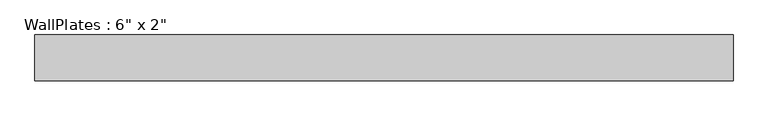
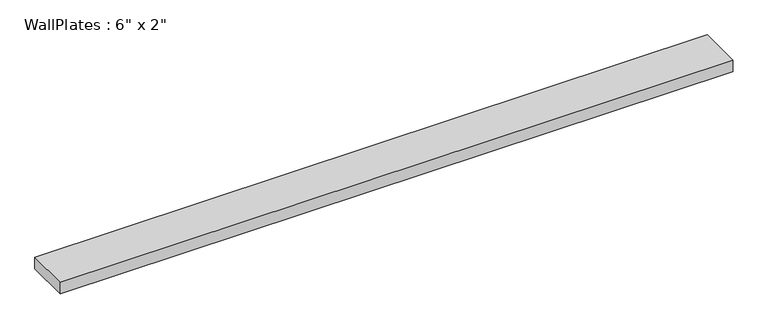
"""IFC4 building model written with IfcOpenShell, lengths in millimetres: beam geometry."""

import ifcopenshell
import ifcopenshell.guid

model = None  # the IFC model being written
_history = None  # IfcOwnerHistory: only IFC2X3 demands one
_inside = {}  # id of a spatial element -> (the spatial element, [elements in it])
_under = {}  # id of a project, library or spatial element -> (it, [spatial elements below it])
_declared = {}  # id of a project -> (the project, [libraries it declares])
_typed = {}  # id of a type object -> (the type object, [elements of that type])
_made_of = {}  # id of a material, layer set ... -> (it, [elements and type objects made of it])


def new_model(schema):
    """Start an empty IFC model of exactly this schema.

    Asked for "IFC4X3", IfcOpenShell would pick the latest addendum, in which some entities
    have other attributes; the version numbers below select the first issue.
    IFC2X3 requires an IfcOwnerHistory on every rooted entity: one is made here for all.
    """
    global model, _history
    if schema == "IFC4X3":
        model = ifcopenshell.file(schema_version=(4, 3, 0, 0))
    else:
        model = ifcopenshell.file(schema=schema)
    _inside.clear()
    _under.clear()
    _declared.clear()
    _typed.clear()
    _made_of.clear()
    _history = None
    if model.schema == "IFC2X3":
        org = make("IfcOrganization", Name="unknown")
        user = make(
            "IfcPersonAndOrganization",
            ThePerson=make("IfcPerson", FamilyName="unknown"),
            TheOrganization=org,
        )
        app = make(
            "IfcApplication",
            ApplicationDeveloper=org,
            Version="unknown",
            ApplicationFullName="unknown",
            ApplicationIdentifier="unknown",
        )
        _history = make(
            "IfcOwnerHistory",
            OwningUser=user,
            OwningApplication=app,
            ChangeAction="ADDED",
            CreationDate=0,
        )
    return model


def make(cls, **values):
    """One entity of the class cls with the attributes given. An attribute that is None is left unset."""
    return model.create_entity(
        cls, **{name: value for name, value in values.items() if value is not None}
    )


def rooted(cls, **values):
    """An entity with a GlobalId (a new one), such as an element, a storey or a relation."""
    return make(cls, GlobalId=ifcopenshell.guid.new(), OwnerHistory=_history, **values)


def si_unit(unit_type, name, prefix=None):
    """IfcSIUnit, for example si_unit("LENGTHUNIT", "METRE", prefix="MILLI")."""
    return make("IfcSIUnit", UnitType=unit_type, Prefix=prefix, Name=name)


def assignment(units):
    """IfcUnitAssignment: the units of a project."""
    return None if units is None else make("IfcUnitAssignment", Units=units)


def point(xyz):
    """IfcCartesianPoint."""
    return None if xyz is None else make("IfcCartesianPoint", Coordinates=xyz)


def direction(xyz):
    """IfcDirection."""
    return None if xyz is None else make("IfcDirection", DirectionRatios=xyz)


def frame(location, z_axis=None, x_axis=None):
    """IfcAxis2Placement3D, a coordinate frame: its origin and axes. An axis left out is left unset."""
    return make(
        "IfcAxis2Placement3D",
        Location=point(location),
        Axis=direction(z_axis),
        RefDirection=direction(x_axis),
    )


def origin():
    """The frame at (0, 0, 0) with its axes left unset."""
    return frame((0.0, 0.0, 0.0))


def place(relative_to, where):
    """IfcLocalPlacement: puts the frame where relative to a parent placement (None: the world)."""
    return make(
        "IfcLocalPlacement", PlacementRelTo=relative_to, RelativePlacement=where
    )


def context(
    kind, dimensions, precision=None, world=None, true_north=None, identifier=None
):
    """IfcGeometricRepresentationContext, for example the 3D "Model" context."""
    return make(
        "IfcGeometricRepresentationContext",
        ContextIdentifier=identifier,
        ContextType=kind,
        CoordinateSpaceDimension=dimensions,
        Precision=precision,
        WorldCoordinateSystem=world,
        TrueNorth=true_north,
    )


def project(units=None, contexts=None):
    """IfcProject with its units and contexts."""
    return rooted(
        "IfcProject",
        Name="project",
        RepresentationContexts=contexts,
        UnitsInContext=assignment(units),
    )


def spatial(cls, under=None, at=None, **own):
    """A site, building, storey or space (cls), placed at a placement, below another one or the project."""
    s = rooted(cls, ObjectPlacement=at, **own)
    if under is not None:
        _under.setdefault(under.id(), (under, []))[1].append(s)
    return s


def polyline(points):
    """IfcPolyline through the points."""
    return make("IfcPolyline", Points=[point(p) for p in points])


def outline(outer, holes=None, kind="AREA"):
    """IfcArbitraryClosedProfileDef: a profile drawn as a closed curve; with holes, ...WithVoids."""
    if holes is None:
        return make("IfcArbitraryClosedProfileDef", ProfileType=kind, OuterCurve=outer)
    return make(
        "IfcArbitraryProfileDefWithVoids",
        ProfileType=kind,
        OuterCurve=outer,
        InnerCurves=holes,
    )


def extrude(swept, where, along, depth):
    """IfcExtrudedAreaSolid: the profile swept, set in the frame where, extruded along a direction by depth."""
    return make(
        "IfcExtrudedAreaSolid",
        SweptArea=swept,
        Position=where,
        ExtrudedDirection=direction(along),
        Depth=depth,
    )


def shape(context_of_items, identifier, shape_type, items):
    """IfcShapeRepresentation: the items that make up one representation, for example the "Body"."""
    return make(
        "IfcShapeRepresentation",
        ContextOfItems=context_of_items,
        RepresentationIdentifier=identifier,
        RepresentationType=shape_type,
        Items=items,
    )


def source(mapping_origin, context_of_items, identifier, shape_type, items):
    """IfcRepresentationMap: a shape defined once, which mapped items show again and again."""
    return make(
        "IfcRepresentationMap",
        MappingOrigin=mapping_origin,
        MappedRepresentation=shape(context_of_items, identifier, shape_type, items),
    )


def transform(
    local_origin,
    x_axis=None,
    y_axis=None,
    z_axis=None,
    scale=None,
    scale2=None,
    scale3=None,
    uniform=True,
):
    """IfcCartesianTransformationOperator3D, or its non-uniform kind. x_axis, y_axis, z_axis: its Axis1, 2, 3."""
    if uniform:
        return make(
            "IfcCartesianTransformationOperator3D",
            Axis1=direction(x_axis),
            Axis2=direction(y_axis),
            LocalOrigin=point(local_origin),
            Scale=scale,
            Axis3=direction(z_axis),
        )
    return make(
        "IfcCartesianTransformationOperator3DnonUniform",
        Axis1=direction(x_axis),
        Axis2=direction(y_axis),
        LocalOrigin=point(local_origin),
        Scale=scale,
        Axis3=direction(z_axis),
        Scale2=scale2,
        Scale3=scale3,
    )


def mapped(mapping_source, mapping_target):
    """IfcMappedItem: shows the shape of a source again, moved by a transform."""
    return make(
        "IfcMappedItem", MappingSource=mapping_source, MappingTarget=mapping_target
    )


def made_of(thing, what):
    """Note that an element or type object is made of a material, layer set ...; save() writes the relation."""
    if what is not None:
        _made_of.setdefault(what.id(), (what, []))[1].append(thing)
    return thing


def element(
    cls,
    number,
    at=None,
    inside=None,
    cuts=None,
    type_object=None,
    material=None,
    context=None,
    identifier="Body",
    shape_type=None,
    held_by="IfcProductDefinitionShape",
    body=None,
    shapes=None,
    **own,
):
    """One element of the class cls, such as IfcWall. Its Tag is "e" and its number.

    at: its placement. inside: the storey or other place that contains it. cuts: it is an
    opening in that element (IfcRelVoidsElement). A single representation is given by context,
    identifier, shape_type and body (its items); several are given by shapes. held_by: the class
    of the entity that holds the representations. save() writes the other relations.
    """
    e = rooted(cls, Tag="e%d" % number, ObjectPlacement=at, **own)
    if body is not None:
        shapes = [shape(context, identifier, shape_type, body)]
    if shapes is not None:
        e.Representation = make(held_by, Representations=shapes)
    if inside is not None:
        _inside.setdefault(inside.id(), (inside, []))[1].append(e)
    if cuts is not None:
        rooted(
            "IfcRelVoidsElement", RelatingBuildingElement=cuts, RelatedOpeningElement=e
        )
    if type_object is not None:
        _typed.setdefault(type_object.id(), (type_object, []))[1].append(e)
    return made_of(e, material)


def aggregate(whole, parts):
    """IfcRelAggregates: a whole, such as a stair, and the parts it consists of."""
    return rooted("IfcRelAggregates", RelatingObject=whole, RelatedObjects=parts)


def save(model, path):
    """Write the relations noted so far, then the file.

    IfcRelAggregates (storeys below a building ...), IfcRelContainedInSpatialStructure (elements
    in a storey), IfcRelDefinesByType, IfcRelAssociatesMaterial and IfcRelDeclares: one each for
    every whole, place, type object, material and project.
    """
    for whole, parts in _under.values():
        aggregate(whole, parts)
    for where, things in _inside.values():
        rooted(
            "IfcRelContainedInSpatialStructure",
            RelatedElements=things,
            RelatingStructure=where,
        )
    for kind, things in _typed.values():
        rooted("IfcRelDefinesByType", RelatedObjects=things, RelatingType=kind)
    for what, things in _made_of.values():
        rooted("IfcRelAssociatesMaterial", RelatedObjects=things, RelatingMaterial=what)
    for by, libraries in _declared.values():
        rooted("IfcRelDeclares", RelatingContext=by, RelatedDefinitions=libraries)
    model.write(path)


def beam_fcf6d596(model_context):
    return source(origin(), model_context, "Body", "SweptSolid", [
        extrude(outline(polyline([(-1066.8, -69.85), (-1066.8, 69.85), (1066.8, 69.85), (1066.8, -69.85), (-1066.8, -69.85)])), frame((0.0, 0.0, -19.05), z_axis=(0.0, 0.0, 1.0), x_axis=(1.0, 0.0, 0.0)), (0.0, 0.0, 1.0), 38.1),
    ])


if __name__ == "__main__":
    model = new_model("IFC4")
    model_context = context("Model", 3, world=origin())
    ifc_project = project(units=[si_unit("LENGTHUNIT", "METRE", prefix="MILLI")], contexts=[model_context])
    site = spatial("IfcSite", under=ifc_project)
    building = spatial("IfcBuilding", under=site)
    placement = place(None, origin())
    beam_shape = beam_fcf6d596(model_context)
    element("IfcBeam", 1, ObjectType="WallPlates : 6\" x 2\"", at=placement, inside=building, context=model_context, shape_type="MappedRepresentation", body=[
        mapped(beam_shape, transform((0.0, 0.0, 0.0), x_axis=(1.0, 0.0, 0.0), y_axis=(0.0, 1.0, 0.0), z_axis=(0.0, 0.0, 1.0))),
    ])
    save(model, "model.ifc")
